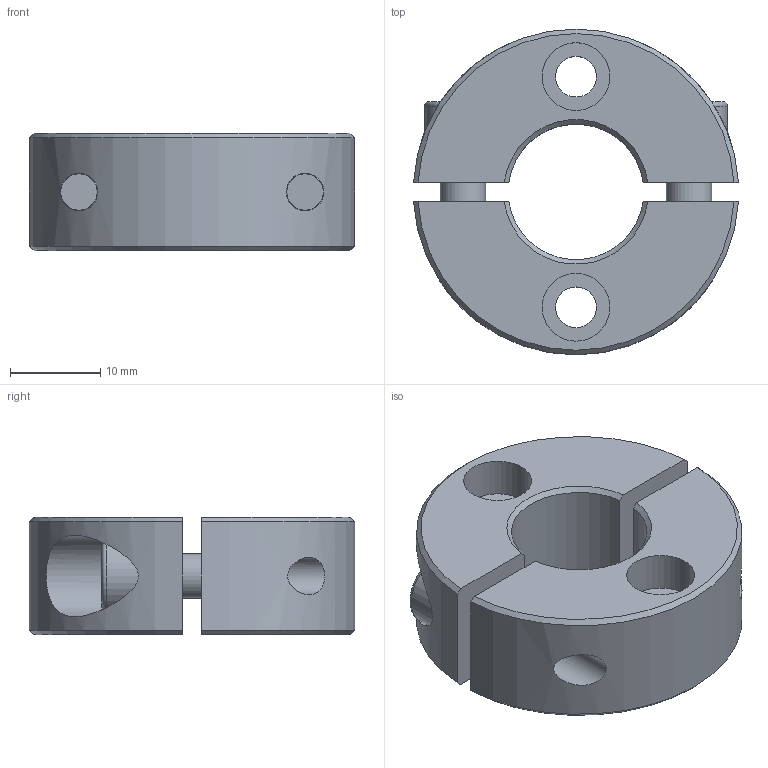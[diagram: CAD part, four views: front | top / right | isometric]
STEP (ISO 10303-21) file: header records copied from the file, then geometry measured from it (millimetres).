
FILE_DESCRIPTION( ( 'STEP AP203' ), '1' );
FILE_NAME( 'C:/Temp/Ganter_Step_05_03_2020/data/3_2/gn7072_2/Split Stainless Steel-Set collar GN 7072.2-36-B15-NI-B.stp', '2020-03-13T05:40:57', ( 'License CC BY-ND 4.0' ), ( 'CADENAS' ), ' ', 'PARTsolutions', ' ' );
FILE_SCHEMA( ( 'CONFIG_CONTROL_DESIGN' ) );
Length unit declared in the file: millimetre
Products named in the file (1): _Split Stainless Steel-Set collar GN 7072.2-36-B15-NI-B
Bounding box: 35.94 x 36 x 13 mm (x, y, z)
Volume: 9081.6 mm3; surface area: 5472.1 mm2
Topology: 1 solids, 1 shells, 62 faces, 143 edges, 97 vertices
Faces by surface type: plane 32, cylinder 18, cone 10, torus 2
Full cylindrical faces by diameter (mm): 4.134 x2, 4.5 x2, 5 x2, 5.4 x2, 7.5 x2, 8.5 x2, 9 x2
Entity records: 1913 total; most frequent: CARTESIAN_POINT 564, DIRECTION 266, ORIENTED_EDGE 232, EDGE_CURVE 116, AXIS2_PLACEMENT_3D 107, EDGE_LOOP 100, VERTEX_POINT 88, FACE_OUTER_BOUND 78
